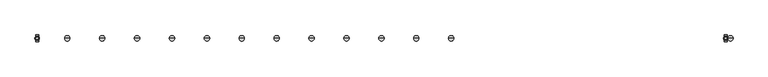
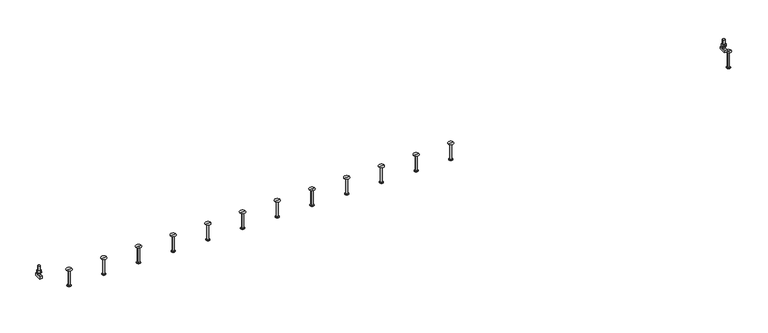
"""IFC4 building model written with IfcOpenShell, lengths in millimetres: fastener geometry, JTA-K JORDAHL® AnchorChannels : JTA-K L=6000 mm."""

from ifc_helpers import new_model, si_unit, point, frame, frame_2d, origin, place, context, project, spatial, polyline, circle_curve, trimmed, segment, composite_curve, outline, extrude, source, transform, mapped, element, save
from ifc_brep_helpers import plane_surface, cylinder_surface, revolved_surface, advanced_brep


def fastener_39b38214(model_context):
    return source(origin(), model_context, "Body", "SolidModel", [
        advanced_brep(
        [(3593.0, 0.0, -48.0), (3570.0, 0.0, -48.0), (3616.0, 0.0, -48.0), (3577.5, 0.0, -195.0), (3593.0, 0.0, -195.0), (3608.5, 0.0, -195.0), (3577.5, 0.0, -193.0), (3608.5, 0.0, -193.0), (3585.2, 0.0, -188.5544029), (3600.8, 0.0, -188.5544029), (3585.2, 0.0, -52.0), (3600.8, 0.0, -52.0)],
        [
            (0, 1),
            (1, 2, circle_curve(frame((3593.0, 0.0, -48.0), z_axis=(0.0, 0.0, 1.0), x_axis=(1.0, 0.0, 0.0)), 23.0)),
            (2, 0),
            (2, 1, circle_curve(frame((3593.0, 0.0, -48.0), z_axis=(0.0, 0.0, 1.0), x_axis=(1.0, 0.0, 0.0)), 23.0)),
            (3, 4),
            (4, 5),
            (5, 3, circle_curve(frame((3593.0, 0.0, -195.0), z_axis=(0.0, 0.0, -1.0), x_axis=(1.0, 0.0, 0.0)), 15.5)),
            (3, 5, circle_curve(frame((3593.0, 0.0, -195.0), z_axis=(0.0, 0.0, -1.0), x_axis=(1.0, 0.0, 0.0)), 15.5)),
            (6, 3),
            (5, 7),
            (7, 6, circle_curve(frame((3593.0, 0.0, -193.0), z_axis=(0.0, 0.0, -1.0), x_axis=(1.0, 0.0, 0.0)), 15.5)),
            (6, 7, circle_curve(frame((3593.0, 0.0, -193.0), z_axis=(0.0, 0.0, -1.0), x_axis=(1.0, 0.0, 0.0)), 15.5)),
            (8, 6),
            (7, 9),
            (9, 8, circle_curve(frame((3593.0, 0.0, -188.5544029), z_axis=(0.0, 0.0, -1.0), x_axis=(1.0, 0.0, 0.0)), 7.8)),
            (8, 9, circle_curve(frame((3593.0, 0.0, -188.5544029), z_axis=(0.0, 0.0, -1.0), x_axis=(1.0, 0.0, 0.0)), 7.8)),
            (10, 8),
            (9, 11),
            (11, 10, circle_curve(frame((3593.0, 0.0, -52.0), z_axis=(0.0, 0.0, -1.0), x_axis=(1.0, 0.0, 0.0)), 7.8)),
            (10, 11, circle_curve(frame((3593.0, 0.0, -52.0), z_axis=(0.0, 0.0, -1.0), x_axis=(1.0, 0.0, 0.0)), 7.8)),
            (1, 10),
            (11, 2),
        ],
        [
            plane_surface(frame((3593.0, 0.0, -48.0), z_axis=(0.0, 0.0, 1.0), x_axis=(1.0, 0.0, 0.0))),
            plane_surface(frame((3593.0, 0.0, -195.0), z_axis=(0.0, 0.0, -1.0), x_axis=(1.0, 0.0, 0.0))),
            cylinder_surface(frame((3593.0, 0.0, 2361.3150031), z_axis=(0.0, 0.0, 1.0), x_axis=(1.0, 0.0, 0.0)), 15.5),
            revolved_surface(polyline([(3608.5, 0.0, -193.0), (3600.8, 0.0, -188.5544029)]), (3593.0, 0.0, 2361.3150031), (0.0, 0.0, 1.0)),
            cylinder_surface(frame((3593.0, 0.0, 2361.3150031), z_axis=(0.0, 0.0, 1.0), x_axis=(1.0, 0.0, 0.0)), 7.8),
            revolved_surface(polyline([(3600.8, 0.0, -52.0), (3616.0, 0.0, -48.0)]), (3593.0, 0.0, 2361.3150031), (0.0, 0.0, 1.0)),
        ],
        [
            (0, [[1, 2, 3]]),
            (0, [[-3, 4, -1]]),
            (1, [[5, 6, 7]]),
            (1, [[-6, -5, 8]]),
            (2, [[9, -7, 10, 11]]),
            (2, [[-10, -8, -9, 12]]),
            (3, [[13, -11, 14, 15]]),
            (3, [[-14, -12, -13, 16]]),
            (4, [[17, -15, 18, 19]]),
            (4, [[-18, -16, -17, 20]]),
            (5, [[21, -19, 22, -2]]),
            (5, [[-22, -20, -21, -4]]),
        ],
    ),
        advanced_brep(
        [(3296.5, 0.0, -48.0), (3273.5, 0.0, -48.0), (3319.5, 0.0, -48.0), (3281.0, 0.0, -195.0), (3296.5, 0.0, -195.0), (3312.0, 0.0, -195.0), (3281.0, 0.0, -193.0), (3312.0, 0.0, -193.0), (3288.7, 0.0, -188.5544029), (3304.3, 0.0, -188.5544029), (3288.7, 0.0, -52.0), (3304.3, 0.0, -52.0)],
        [
            (0, 1),
            (1, 2, circle_curve(frame((3296.5, 0.0, -48.0), z_axis=(0.0, 0.0, 1.0), x_axis=(1.0, 0.0, 0.0)), 23.0)),
            (2, 0),
            (2, 1, circle_curve(frame((3296.5, 0.0, -48.0), z_axis=(0.0, 0.0, 1.0), x_axis=(1.0, 0.0, 0.0)), 23.0)),
            (3, 4),
            (4, 5),
            (5, 3, circle_curve(frame((3296.5, 0.0, -195.0), z_axis=(0.0, 0.0, -1.0), x_axis=(1.0, 0.0, 0.0)), 15.5)),
            (3, 5, circle_curve(frame((3296.5, 0.0, -195.0), z_axis=(0.0, 0.0, -1.0), x_axis=(1.0, 0.0, 0.0)), 15.5)),
            (6, 3),
            (5, 7),
            (7, 6, circle_curve(frame((3296.5, 0.0, -193.0), z_axis=(0.0, 0.0, -1.0), x_axis=(1.0, 0.0, 0.0)), 15.5)),
            (6, 7, circle_curve(frame((3296.5, 0.0, -193.0), z_axis=(0.0, 0.0, -1.0), x_axis=(1.0, 0.0, 0.0)), 15.5)),
            (8, 6),
            (7, 9),
            (9, 8, circle_curve(frame((3296.5, 0.0, -188.5544029), z_axis=(0.0, 0.0, -1.0), x_axis=(1.0, 0.0, 0.0)), 7.8)),
            (8, 9, circle_curve(frame((3296.5, 0.0, -188.5544029), z_axis=(0.0, 0.0, -1.0), x_axis=(1.0, 0.0, 0.0)), 7.8)),
            (10, 8),
            (9, 11),
            (11, 10, circle_curve(frame((3296.5, 0.0, -52.0), z_axis=(0.0, 0.0, -1.0), x_axis=(1.0, 0.0, 0.0)), 7.8)),
            (10, 11, circle_curve(frame((3296.5, 0.0, -52.0), z_axis=(0.0, 0.0, -1.0), x_axis=(1.0, 0.0, 0.0)), 7.8)),
            (1, 10),
            (11, 2),
        ],
        [
            plane_surface(frame((3296.5, 0.0, -48.0), z_axis=(0.0, 0.0, 1.0), x_axis=(1.0, 0.0, 0.0))),
            plane_surface(frame((3296.5, 0.0, -195.0), z_axis=(0.0, 0.0, -1.0), x_axis=(1.0, 0.0, 0.0))),
            cylinder_surface(frame((3296.5, 0.0, 2361.3150031), z_axis=(0.0, 0.0, 1.0), x_axis=(1.0, 0.0, 0.0)), 15.5),
            revolved_surface(polyline([(3312.0, 0.0, -193.0), (3304.3, 0.0, -188.5544029)]), (3296.5, 0.0, 2361.3150031), (0.0, 0.0, 1.0)),
            cylinder_surface(frame((3296.5, 0.0, 2361.3150031), z_axis=(0.0, 0.0, 1.0), x_axis=(1.0, 0.0, 0.0)), 7.8),
            revolved_surface(polyline([(3304.3, 0.0, -52.0), (3319.5, 0.0, -48.0)]), (3296.5, 0.0, 2361.3150031), (0.0, 0.0, 1.0)),
        ],
        [
            (0, [[1, 2, 3]]),
            (0, [[-3, 4, -1]]),
            (1, [[5, 6, 7]]),
            (1, [[-6, -5, 8]]),
            (2, [[9, -7, 10, 11]]),
            (2, [[-10, -8, -9, 12]]),
            (3, [[13, -11, 14, 15]]),
            (3, [[-14, -12, -13, 16]]),
            (4, [[17, -15, 18, 19]]),
            (4, [[-18, -16, -17, 20]]),
            (5, [[21, -19, 22, -2]]),
            (5, [[-22, -20, -21, -4]]),
        ],
    ),
        advanced_brep(
        [(3000.0, 0.0, -48.0), (2977.0, 0.0, -48.0), (3023.0, 0.0, -48.0), (2984.5, 0.0, -195.0), (3000.0, 0.0, -195.0), (3015.5, 0.0, -195.0), (2984.5, 0.0, -193.0), (3015.5, 0.0, -193.0), (2992.2, 0.0, -188.5544029), (3007.8, 0.0, -188.5544029), (2992.2, 0.0, -52.0), (3007.8, 0.0, -52.0)],
        [
            (0, 1),
            (1, 2, circle_curve(frame((3000.0, 0.0, -48.0), z_axis=(0.0, 0.0, 1.0), x_axis=(1.0, 0.0, 0.0)), 23.0)),
            (2, 0),
            (2, 1, circle_curve(frame((3000.0, 0.0, -48.0), z_axis=(0.0, 0.0, 1.0), x_axis=(1.0, 0.0, 0.0)), 23.0)),
            (3, 4),
            (4, 5),
            (5, 3, circle_curve(frame((3000.0, 0.0, -195.0), z_axis=(0.0, 0.0, -1.0), x_axis=(1.0, 0.0, 0.0)), 15.5)),
            (3, 5, circle_curve(frame((3000.0, 0.0, -195.0), z_axis=(0.0, 0.0, -1.0), x_axis=(1.0, 0.0, 0.0)), 15.5)),
            (6, 3),
            (5, 7),
            (7, 6, circle_curve(frame((3000.0, 0.0, -193.0), z_axis=(0.0, 0.0, -1.0), x_axis=(1.0, 0.0, 0.0)), 15.5)),
            (6, 7, circle_curve(frame((3000.0, 0.0, -193.0), z_axis=(0.0, 0.0, -1.0), x_axis=(1.0, 0.0, 0.0)), 15.5)),
            (8, 6),
            (7, 9),
            (9, 8, circle_curve(frame((3000.0, 0.0, -188.5544029), z_axis=(0.0, 0.0, -1.0), x_axis=(1.0, 0.0, 0.0)), 7.8)),
            (8, 9, circle_curve(frame((3000.0, 0.0, -188.5544029), z_axis=(0.0, 0.0, -1.0), x_axis=(1.0, 0.0, 0.0)), 7.8)),
            (10, 8),
            (9, 11),
            (11, 10, circle_curve(frame((3000.0, 0.0, -52.0), z_axis=(0.0, 0.0, -1.0), x_axis=(1.0, 0.0, 0.0)), 7.8)),
            (10, 11, circle_curve(frame((3000.0, 0.0, -52.0), z_axis=(0.0, 0.0, -1.0), x_axis=(1.0, 0.0, 0.0)), 7.8)),
            (1, 10),
            (11, 2),
        ],
        [
            plane_surface(frame((3000.0, 0.0, -48.0), z_axis=(0.0, 0.0, 1.0), x_axis=(1.0, 0.0, 0.0))),
            plane_surface(frame((3000.0, 0.0, -195.0), z_axis=(0.0, 0.0, -1.0), x_axis=(1.0, 0.0, 0.0))),
            cylinder_surface(frame((3000.0, 0.0, 2361.3150031), z_axis=(0.0, 0.0, 1.0), x_axis=(1.0, 0.0, 0.0)), 15.5),
            revolved_surface(polyline([(3015.5, 0.0, -193.0), (3007.8, 0.0, -188.5544029)]), (3000.0, 0.0, 2361.3150031), (0.0, 0.0, 1.0)),
            cylinder_surface(frame((3000.0, 0.0, 2361.3150031), z_axis=(0.0, 0.0, 1.0), x_axis=(1.0, 0.0, 0.0)), 7.8),
            revolved_surface(polyline([(3007.8, 0.0, -52.0), (3023.0, 0.0, -48.0)]), (3000.0, 0.0, 2361.3150031), (0.0, 0.0, 1.0)),
        ],
        [
            (0, [[1, 2, 3]]),
            (0, [[-3, 4, -1]]),
            (1, [[5, 6, 7]]),
            (1, [[-6, -5, 8]]),
            (2, [[9, -7, 10, 11]]),
            (2, [[-10, -8, -9, 12]]),
            (3, [[13, -11, 14, 15]]),
            (3, [[-14, -12, -13, 16]]),
            (4, [[17, -15, 18, 19]]),
            (4, [[-18, -16, -17, 20]]),
            (5, [[21, -19, 22, -2]]),
            (5, [[-22, -20, -21, -4]]),
        ],
    ),
        advanced_brep(
        [(2703.5, 0.0, -48.0), (2680.5, 0.0, -48.0), (2726.5, 0.0, -48.0), (2688.0, 0.0, -195.0), (2703.5, 0.0, -195.0), (2719.0, 0.0, -195.0), (2688.0, 0.0, -193.0), (2719.0, 0.0, -193.0), (2695.7, 0.0, -188.5544029), (2711.3, 0.0, -188.5544029), (2695.7, 0.0, -52.0), (2711.3, 0.0, -52.0)],
        [
            (0, 1),
            (1, 2, circle_curve(frame((2703.5, 0.0, -48.0), z_axis=(0.0, 0.0, 1.0), x_axis=(1.0, 0.0, 0.0)), 23.0)),
            (2, 0),
            (2, 1, circle_curve(frame((2703.5, 0.0, -48.0), z_axis=(0.0, 0.0, 1.0), x_axis=(1.0, 0.0, 0.0)), 23.0)),
            (3, 4),
            (4, 5),
            (5, 3, circle_curve(frame((2703.5, 0.0, -195.0), z_axis=(0.0, 0.0, -1.0), x_axis=(1.0, 0.0, 0.0)), 15.5)),
            (3, 5, circle_curve(frame((2703.5, 0.0, -195.0), z_axis=(0.0, 0.0, -1.0), x_axis=(1.0, 0.0, 0.0)), 15.5)),
            (6, 3),
            (5, 7),
            (7, 6, circle_curve(frame((2703.5, 0.0, -193.0), z_axis=(0.0, 0.0, -1.0), x_axis=(1.0, 0.0, 0.0)), 15.5)),
            (6, 7, circle_curve(frame((2703.5, 0.0, -193.0), z_axis=(0.0, 0.0, -1.0), x_axis=(1.0, 0.0, 0.0)), 15.5)),
            (8, 6),
            (7, 9),
            (9, 8, circle_curve(frame((2703.5, 0.0, -188.5544029), z_axis=(0.0, 0.0, -1.0), x_axis=(1.0, 0.0, 0.0)), 7.8)),
            (8, 9, circle_curve(frame((2703.5, 0.0, -188.5544029), z_axis=(0.0, 0.0, -1.0), x_axis=(1.0, 0.0, 0.0)), 7.8)),
            (10, 8),
            (9, 11),
            (11, 10, circle_curve(frame((2703.5, 0.0, -52.0), z_axis=(0.0, 0.0, -1.0), x_axis=(1.0, 0.0, 0.0)), 7.8)),
            (10, 11, circle_curve(frame((2703.5, 0.0, -52.0), z_axis=(0.0, 0.0, -1.0), x_axis=(1.0, 0.0, 0.0)), 7.8)),
            (1, 10),
            (11, 2),
        ],
        [
            plane_surface(frame((2703.5, 0.0, -48.0), z_axis=(0.0, 0.0, 1.0), x_axis=(1.0, 0.0, 0.0))),
            plane_surface(frame((2703.5, 0.0, -195.0), z_axis=(0.0, 0.0, -1.0), x_axis=(1.0, 0.0, 0.0))),
            cylinder_surface(frame((2703.5, 0.0, 2361.3150031), z_axis=(0.0, 0.0, 1.0), x_axis=(1.0, 0.0, 0.0)), 15.5),
            revolved_surface(polyline([(2719.0, 0.0, -193.0), (2711.3, 0.0, -188.5544029)]), (2703.5, 0.0, 2361.3150031), (0.0, 0.0, 1.0)),
            cylinder_surface(frame((2703.5, 0.0, 2361.3150031), z_axis=(0.0, 0.0, 1.0), x_axis=(1.0, 0.0, 0.0)), 7.8),
            revolved_surface(polyline([(2711.3, 0.0, -52.0), (2726.5, 0.0, -48.0)]), (2703.5, 0.0, 2361.3150031), (0.0, 0.0, 1.0)),
        ],
        [
            (0, [[1, 2, 3]]),
            (0, [[-3, 4, -1]]),
            (1, [[5, 6, 7]]),
            (1, [[-6, -5, 8]]),
            (2, [[9, -7, 10, 11]]),
            (2, [[-10, -8, -9, 12]]),
            (3, [[13, -11, 14, 15]]),
            (3, [[-14, -12, -13, 16]]),
            (4, [[17, -15, 18, 19]]),
            (4, [[-18, -16, -17, 20]]),
            (5, [[21, -19, 22, -2]]),
            (5, [[-22, -20, -21, -4]]),
        ],
    ),
        advanced_brep(
        [(2407.0, 0.0, -48.0), (2384.0, 0.0, -48.0), (2430.0, 0.0, -48.0), (2391.5, 0.0, -195.0), (2407.0, 0.0, -195.0), (2422.5, 0.0, -195.0), (2391.5, 0.0, -193.0), (2422.5, 0.0, -193.0), (2399.2, 0.0, -188.5544029), (2414.8, 0.0, -188.5544029), (2399.2, 0.0, -52.0), (2414.8, 0.0, -52.0)],
        [
            (0, 1),
            (1, 2, circle_curve(frame((2407.0, 0.0, -48.0), z_axis=(0.0, 0.0, 1.0), x_axis=(1.0, 0.0, 0.0)), 23.0)),
            (2, 0),
            (2, 1, circle_curve(frame((2407.0, 0.0, -48.0), z_axis=(0.0, 0.0, 1.0), x_axis=(1.0, 0.0, 0.0)), 23.0)),
            (3, 4),
            (4, 5),
            (5, 3, circle_curve(frame((2407.0, 0.0, -195.0), z_axis=(0.0, 0.0, -1.0), x_axis=(1.0, 0.0, 0.0)), 15.5)),
            (3, 5, circle_curve(frame((2407.0, 0.0, -195.0), z_axis=(0.0, 0.0, -1.0), x_axis=(1.0, 0.0, 0.0)), 15.5)),
            (6, 3),
            (5, 7),
            (7, 6, circle_curve(frame((2407.0, 0.0, -193.0), z_axis=(0.0, 0.0, -1.0), x_axis=(1.0, 0.0, 0.0)), 15.5)),
            (6, 7, circle_curve(frame((2407.0, 0.0, -193.0), z_axis=(0.0, 0.0, -1.0), x_axis=(1.0, 0.0, 0.0)), 15.5)),
            (8, 6),
            (7, 9),
            (9, 8, circle_curve(frame((2407.0, 0.0, -188.5544029), z_axis=(0.0, 0.0, -1.0), x_axis=(1.0, 0.0, 0.0)), 7.8)),
            (8, 9, circle_curve(frame((2407.0, 0.0, -188.5544029), z_axis=(0.0, 0.0, -1.0), x_axis=(1.0, 0.0, 0.0)), 7.8)),
            (10, 8),
            (9, 11),
            (11, 10, circle_curve(frame((2407.0, 0.0, -52.0), z_axis=(0.0, 0.0, -1.0), x_axis=(1.0, 0.0, 0.0)), 7.8)),
            (10, 11, circle_curve(frame((2407.0, 0.0, -52.0), z_axis=(0.0, 0.0, -1.0), x_axis=(1.0, 0.0, 0.0)), 7.8)),
            (1, 10),
            (11, 2),
        ],
        [
            plane_surface(frame((2407.0, 0.0, -48.0), z_axis=(0.0, 0.0, 1.0), x_axis=(1.0, 0.0, 0.0))),
            plane_surface(frame((2407.0, 0.0, -195.0), z_axis=(0.0, 0.0, -1.0), x_axis=(1.0, 0.0, 0.0))),
            cylinder_surface(frame((2407.0, 0.0, 2361.3150031), z_axis=(0.0, 0.0, 1.0), x_axis=(1.0, 0.0, 0.0)), 15.5),
            revolved_surface(polyline([(2422.5, 0.0, -193.0), (2414.8, 0.0, -188.5544029)]), (2407.0, 0.0, 2361.3150031), (0.0, 0.0, 1.0)),
            cylinder_surface(frame((2407.0, 0.0, 2361.3150031), z_axis=(0.0, 0.0, 1.0), x_axis=(1.0, 0.0, 0.0)), 7.8),
            revolved_surface(polyline([(2414.8, 0.0, -52.0), (2430.0, 0.0, -48.0)]), (2407.0, 0.0, 2361.3150031), (0.0, 0.0, 1.0)),
        ],
        [
            (0, [[1, 2, 3]]),
            (0, [[-3, 4, -1]]),
            (1, [[5, 6, 7]]),
            (1, [[-6, -5, 8]]),
            (2, [[9, -7, 10, 11]]),
            (2, [[-10, -8, -9, 12]]),
            (3, [[13, -11, 14, 15]]),
            (3, [[-14, -12, -13, 16]]),
            (4, [[17, -15, 18, 19]]),
            (4, [[-18, -16, -17, 20]]),
            (5, [[21, -19, 22, -2]]),
            (5, [[-22, -20, -21, -4]]),
        ],
    ),
        advanced_brep(
        [(2110.5, 0.0, -48.0), (2087.5, 0.0, -48.0), (2133.5, 0.0, -48.0), (2095.0, 0.0, -195.0), (2110.5, 0.0, -195.0), (2126.0, 0.0, -195.0), (2095.0, 0.0, -193.0), (2126.0, 0.0, -193.0), (2102.7, 0.0, -188.5544029), (2118.3, 0.0, -188.5544029), (2102.7, 0.0, -52.0), (2118.3, 0.0, -52.0)],
        [
            (0, 1),
            (1, 2, circle_curve(frame((2110.5, 0.0, -48.0), z_axis=(0.0, 0.0, 1.0), x_axis=(1.0, 0.0, 0.0)), 23.0)),
            (2, 0),
            (2, 1, circle_curve(frame((2110.5, 0.0, -48.0), z_axis=(0.0, 0.0, 1.0), x_axis=(1.0, 0.0, 0.0)), 23.0)),
            (3, 4),
            (4, 5),
            (5, 3, circle_curve(frame((2110.5, 0.0, -195.0), z_axis=(0.0, 0.0, -1.0), x_axis=(1.0, 0.0, 0.0)), 15.5)),
            (3, 5, circle_curve(frame((2110.5, 0.0, -195.0), z_axis=(0.0, 0.0, -1.0), x_axis=(1.0, 0.0, 0.0)), 15.5)),
            (6, 3),
            (5, 7),
            (7, 6, circle_curve(frame((2110.5, 0.0, -193.0), z_axis=(0.0, 0.0, -1.0), x_axis=(1.0, 0.0, 0.0)), 15.5)),
            (6, 7, circle_curve(frame((2110.5, 0.0, -193.0), z_axis=(0.0, 0.0, -1.0), x_axis=(1.0, 0.0, 0.0)), 15.5)),
            (8, 6),
            (7, 9),
            (9, 8, circle_curve(frame((2110.5, 0.0, -188.5544029), z_axis=(0.0, 0.0, -1.0), x_axis=(1.0, 0.0, 0.0)), 7.8)),
            (8, 9, circle_curve(frame((2110.5, 0.0, -188.5544029), z_axis=(0.0, 0.0, -1.0), x_axis=(1.0, 0.0, 0.0)), 7.8)),
            (10, 8),
            (9, 11),
            (11, 10, circle_curve(frame((2110.5, 0.0, -52.0), z_axis=(0.0, 0.0, -1.0), x_axis=(1.0, 0.0, 0.0)), 7.8)),
            (10, 11, circle_curve(frame((2110.5, 0.0, -52.0), z_axis=(0.0, 0.0, -1.0), x_axis=(1.0, 0.0, 0.0)), 7.8)),
            (1, 10),
            (11, 2),
        ],
        [
            plane_surface(frame((2110.5, 0.0, -48.0), z_axis=(0.0, 0.0, 1.0), x_axis=(1.0, 0.0, 0.0))),
            plane_surface(frame((2110.5, 0.0, -195.0), z_axis=(0.0, 0.0, -1.0), x_axis=(1.0, 0.0, 0.0))),
            cylinder_surface(frame((2110.5, 0.0, 2361.3150031), z_axis=(0.0, 0.0, 1.0), x_axis=(1.0, 0.0, 0.0)), 15.5),
            revolved_surface(polyline([(2126.0, 0.0, -193.0), (2118.3, 0.0, -188.5544029)]), (2110.5, 0.0, 2361.3150031), (0.0, 0.0, 1.0)),
            cylinder_surface(frame((2110.5, 0.0, 2361.3150031), z_axis=(0.0, 0.0, 1.0), x_axis=(1.0, 0.0, 0.0)), 7.8),
            revolved_surface(polyline([(2118.3, 0.0, -52.0), (2133.5, 0.0, -48.0)]), (2110.5, 0.0, 2361.3150031), (0.0, 0.0, 1.0)),
        ],
        [
            (0, [[1, 2, 3]]),
            (0, [[-3, 4, -1]]),
            (1, [[5, 6, 7]]),
            (1, [[-6, -5, 8]]),
            (2, [[9, -7, 10, 11]]),
            (2, [[-10, -8, -9, 12]]),
            (3, [[13, -11, 14, 15]]),
            (3, [[-14, -12, -13, 16]]),
            (4, [[17, -15, 18, 19]]),
            (4, [[-18, -16, -17, 20]]),
            (5, [[21, -19, 22, -2]]),
            (5, [[-22, -20, -21, -4]]),
        ],
    ),
        advanced_brep(
        [(1814.0, 0.0, -48.0), (1791.0, 0.0, -48.0), (1837.0, 0.0, -48.0), (1798.5, 0.0, -195.0), (1814.0, 0.0, -195.0), (1829.5, 0.0, -195.0), (1798.5, 0.0, -193.0), (1829.5, 0.0, -193.0), (1806.2, 0.0, -188.5544029), (1821.8, 0.0, -188.5544029), (1806.2, 0.0, -52.0), (1821.8, 0.0, -52.0)],
        [
            (0, 1),
            (1, 2, circle_curve(frame((1814.0, 0.0, -48.0), z_axis=(0.0, 0.0, 1.0), x_axis=(1.0, 0.0, 0.0)), 23.0)),
            (2, 0),
            (2, 1, circle_curve(frame((1814.0, 0.0, -48.0), z_axis=(0.0, 0.0, 1.0), x_axis=(1.0, 0.0, 0.0)), 23.0)),
            (3, 4),
            (4, 5),
            (5, 3, circle_curve(frame((1814.0, 0.0, -195.0), z_axis=(0.0, 0.0, -1.0), x_axis=(1.0, 0.0, 0.0)), 15.5)),
            (3, 5, circle_curve(frame((1814.0, 0.0, -195.0), z_axis=(0.0, 0.0, -1.0), x_axis=(1.0, 0.0, 0.0)), 15.5)),
            (6, 3),
            (5, 7),
            (7, 6, circle_curve(frame((1814.0, 0.0, -193.0), z_axis=(0.0, 0.0, -1.0), x_axis=(1.0, 0.0, 0.0)), 15.5)),
            (6, 7, circle_curve(frame((1814.0, 0.0, -193.0), z_axis=(0.0, 0.0, -1.0), x_axis=(1.0, 0.0, 0.0)), 15.5)),
            (8, 6),
            (7, 9),
            (9, 8, circle_curve(frame((1814.0, 0.0, -188.5544029), z_axis=(0.0, 0.0, -1.0), x_axis=(1.0, 0.0, 0.0)), 7.8)),
            (8, 9, circle_curve(frame((1814.0, 0.0, -188.5544029), z_axis=(0.0, 0.0, -1.0), x_axis=(1.0, 0.0, 0.0)), 7.8)),
            (10, 8),
            (9, 11),
            (11, 10, circle_curve(frame((1814.0, 0.0, -52.0), z_axis=(0.0, 0.0, -1.0), x_axis=(1.0, 0.0, 0.0)), 7.8)),
            (10, 11, circle_curve(frame((1814.0, 0.0, -52.0), z_axis=(0.0, 0.0, -1.0), x_axis=(1.0, 0.0, 0.0)), 7.8)),
            (1, 10),
            (11, 2),
        ],
        [
            plane_surface(frame((1814.0, 0.0, -48.0), z_axis=(0.0, 0.0, 1.0), x_axis=(1.0, 0.0, 0.0))),
            plane_surface(frame((1814.0, 0.0, -195.0), z_axis=(0.0, 0.0, -1.0), x_axis=(1.0, 0.0, 0.0))),
            cylinder_surface(frame((1814.0, 0.0, 2361.3150031), z_axis=(0.0, 0.0, 1.0), x_axis=(1.0, 0.0, 0.0)), 15.5),
            revolved_surface(polyline([(1829.5, 0.0, -193.0), (1821.8, 0.0, -188.5544029)]), (1814.0, 0.0, 2361.3150031), (0.0, 0.0, 1.0)),
            cylinder_surface(frame((1814.0, 0.0, 2361.3150031), z_axis=(0.0, 0.0, 1.0), x_axis=(1.0, 0.0, 0.0)), 7.8),
            revolved_surface(polyline([(1821.8, 0.0, -52.0), (1837.0, 0.0, -48.0)]), (1814.0, 0.0, 2361.3150031), (0.0, 0.0, 1.0)),
        ],
        [
            (0, [[1, 2, 3]]),
            (0, [[-3, 4, -1]]),
            (1, [[5, 6, 7]]),
            (1, [[-6, -5, 8]]),
            (2, [[9, -7, 10, 11]]),
            (2, [[-10, -8, -9, 12]]),
            (3, [[13, -11, 14, 15]]),
            (3, [[-14, -12, -13, 16]]),
            (4, [[17, -15, 18, 19]]),
            (4, [[-18, -16, -17, 20]]),
            (5, [[21, -19, 22, -2]]),
            (5, [[-22, -20, -21, -4]]),
        ],
    ),
        advanced_brep(
        [(1517.5, 0.0, -48.0), (1494.5, 0.0, -48.0), (1540.5, 0.0, -48.0), (1502.0, 0.0, -195.0), (1517.5, 0.0, -195.0), (1533.0, 0.0, -195.0), (1502.0, 0.0, -193.0), (1533.0, 0.0, -193.0), (1509.7, 0.0, -188.5544029), (1525.3, 0.0, -188.5544029), (1509.7, 0.0, -52.0), (1525.3, 0.0, -52.0)],
        [
            (0, 1),
            (1, 2, circle_curve(frame((1517.5, 0.0, -48.0), z_axis=(0.0, 0.0, 1.0), x_axis=(1.0, 0.0, 0.0)), 23.0)),
            (2, 0),
            (2, 1, circle_curve(frame((1517.5, 0.0, -48.0), z_axis=(0.0, 0.0, 1.0), x_axis=(1.0, 0.0, 0.0)), 23.0)),
            (3, 4),
            (4, 5),
            (5, 3, circle_curve(frame((1517.5, 0.0, -195.0), z_axis=(0.0, 0.0, -1.0), x_axis=(1.0, 0.0, 0.0)), 15.5)),
            (3, 5, circle_curve(frame((1517.5, 0.0, -195.0), z_axis=(0.0, 0.0, -1.0), x_axis=(1.0, 0.0, 0.0)), 15.5)),
            (6, 3),
            (5, 7),
            (7, 6, circle_curve(frame((1517.5, 0.0, -193.0), z_axis=(0.0, 0.0, -1.0), x_axis=(1.0, 0.0, 0.0)), 15.5)),
            (6, 7, circle_curve(frame((1517.5, 0.0, -193.0), z_axis=(0.0, 0.0, -1.0), x_axis=(1.0, 0.0, 0.0)), 15.5)),
            (8, 6),
            (7, 9),
            (9, 8, circle_curve(frame((1517.5, 0.0, -188.5544029), z_axis=(0.0, 0.0, -1.0), x_axis=(1.0, 0.0, 0.0)), 7.8)),
            (8, 9, circle_curve(frame((1517.5, 0.0, -188.5544029), z_axis=(0.0, 0.0, -1.0), x_axis=(1.0, 0.0, 0.0)), 7.8)),
            (10, 8),
            (9, 11),
            (11, 10, circle_curve(frame((1517.5, 0.0, -52.0), z_axis=(0.0, 0.0, -1.0), x_axis=(1.0, 0.0, 0.0)), 7.8)),
            (10, 11, circle_curve(frame((1517.5, 0.0, -52.0), z_axis=(0.0, 0.0, -1.0), x_axis=(1.0, 0.0, 0.0)), 7.8)),
            (1, 10),
            (11, 2),
        ],
        [
            plane_surface(frame((1517.5, 0.0, -48.0), z_axis=(0.0, 0.0, 1.0), x_axis=(1.0, 0.0, 0.0))),
            plane_surface(frame((1517.5, 0.0, -195.0), z_axis=(0.0, 0.0, -1.0), x_axis=(1.0, 0.0, 0.0))),
            cylinder_surface(frame((1517.5, 0.0, 2361.3150031), z_axis=(0.0, 0.0, 1.0), x_axis=(1.0, 0.0, 0.0)), 15.5),
            revolved_surface(polyline([(1533.0, 0.0, -193.0), (1525.3, 0.0, -188.5544029)]), (1517.5, 0.0, 2361.3150031), (0.0, 0.0, 1.0)),
            cylinder_surface(frame((1517.5, 0.0, 2361.3150031), z_axis=(0.0, 0.0, 1.0), x_axis=(1.0, 0.0, 0.0)), 7.8),
            revolved_surface(polyline([(1525.3, 0.0, -52.0), (1540.5, 0.0, -48.0)]), (1517.5, 0.0, 2361.3150031), (0.0, 0.0, 1.0)),
        ],
        [
            (0, [[1, 2, 3]]),
            (0, [[-3, 4, -1]]),
            (1, [[5, 6, 7]]),
            (1, [[-6, -5, 8]]),
            (2, [[9, -7, 10, 11]]),
            (2, [[-10, -8, -9, 12]]),
            (3, [[13, -11, 14, 15]]),
            (3, [[-14, -12, -13, 16]]),
            (4, [[17, -15, 18, 19]]),
            (4, [[-18, -16, -17, 20]]),
            (5, [[21, -19, 22, -2]]),
            (5, [[-22, -20, -21, -4]]),
        ],
    ),
        advanced_brep(
        [(1221.0, 0.0, -48.0), (1198.0, 0.0, -48.0), (1244.0, 0.0, -48.0), (1205.5, 0.0, -195.0), (1221.0, 0.0, -195.0), (1236.5, 0.0, -195.0), (1205.5, 0.0, -193.0), (1236.5, 0.0, -193.0), (1213.2, 0.0, -188.5544029), (1228.8, 0.0, -188.5544029), (1213.2, 0.0, -52.0), (1228.8, 0.0, -52.0)],
        [
            (0, 1),
            (1, 2, circle_curve(frame((1221.0, 0.0, -48.0), z_axis=(0.0, 0.0, 1.0), x_axis=(1.0, 0.0, 0.0)), 23.0)),
            (2, 0),
            (2, 1, circle_curve(frame((1221.0, 0.0, -48.0), z_axis=(0.0, 0.0, 1.0), x_axis=(1.0, 0.0, 0.0)), 23.0)),
            (3, 4),
            (4, 5),
            (5, 3, circle_curve(frame((1221.0, 0.0, -195.0), z_axis=(0.0, 0.0, -1.0), x_axis=(1.0, 0.0, 0.0)), 15.5)),
            (3, 5, circle_curve(frame((1221.0, 0.0, -195.0), z_axis=(0.0, 0.0, -1.0), x_axis=(1.0, 0.0, 0.0)), 15.5)),
            (6, 3),
            (5, 7),
            (7, 6, circle_curve(frame((1221.0, 0.0, -193.0), z_axis=(0.0, 0.0, -1.0), x_axis=(1.0, 0.0, 0.0)), 15.5)),
            (6, 7, circle_curve(frame((1221.0, 0.0, -193.0), z_axis=(0.0, 0.0, -1.0), x_axis=(1.0, 0.0, 0.0)), 15.5)),
            (8, 6),
            (7, 9),
            (9, 8, circle_curve(frame((1221.0, 0.0, -188.5544029), z_axis=(0.0, 0.0, -1.0), x_axis=(1.0, 0.0, 0.0)), 7.8)),
            (8, 9, circle_curve(frame((1221.0, 0.0, -188.5544029), z_axis=(0.0, 0.0, -1.0), x_axis=(1.0, 0.0, 0.0)), 7.8)),
            (10, 8),
            (9, 11),
            (11, 10, circle_curve(frame((1221.0, 0.0, -52.0), z_axis=(0.0, 0.0, -1.0), x_axis=(1.0, 0.0, 0.0)), 7.8)),
            (10, 11, circle_curve(frame((1221.0, 0.0, -52.0), z_axis=(0.0, 0.0, -1.0), x_axis=(1.0, 0.0, 0.0)), 7.8)),
            (1, 10),
            (11, 2),
        ],
        [
            plane_surface(frame((1221.0, 0.0, -48.0), z_axis=(0.0, 0.0, 1.0), x_axis=(1.0, 0.0, 0.0))),
            plane_surface(frame((1221.0, 0.0, -195.0), z_axis=(0.0, 0.0, -1.0), x_axis=(1.0, 0.0, 0.0))),
            cylinder_surface(frame((1221.0, 0.0, 2361.3150031), z_axis=(0.0, 0.0, 1.0), x_axis=(1.0, 0.0, 0.0)), 15.5),
            revolved_surface(polyline([(1236.5, 0.0, -193.0), (1228.8, 0.0, -188.5544029)]), (1221.0, 0.0, 2361.3150031), (0.0, 0.0, 1.0)),
            cylinder_surface(frame((1221.0, 0.0, 2361.3150031), z_axis=(0.0, 0.0, 1.0), x_axis=(1.0, 0.0, 0.0)), 7.8),
            revolved_surface(polyline([(1228.8, 0.0, -52.0), (1244.0, 0.0, -48.0)]), (1221.0, 0.0, 2361.3150031), (0.0, 0.0, 1.0)),
        ],
        [
            (0, [[1, 2, 3]]),
            (0, [[-3, 4, -1]]),
            (1, [[5, 6, 7]]),
            (1, [[-6, -5, 8]]),
            (2, [[9, -7, 10, 11]]),
            (2, [[-10, -8, -9, 12]]),
            (3, [[13, -11, 14, 15]]),
            (3, [[-14, -12, -13, 16]]),
            (4, [[17, -15, 18, 19]]),
            (4, [[-18, -16, -17, 20]]),
            (5, [[21, -19, 22, -2]]),
            (5, [[-22, -20, -21, -4]]),
        ],
    ),
        advanced_brep(
        [(924.5, 0.0, -48.0), (901.5, 0.0, -48.0), (947.5, 0.0, -48.0), (909.0, 0.0, -195.0), (924.5, 0.0, -195.0), (940.0, 0.0, -195.0), (909.0, 0.0, -193.0), (940.0, 0.0, -193.0), (916.7, 0.0, -188.5544029), (932.3, 0.0, -188.5544029), (916.7, 0.0, -52.0), (932.3, 0.0, -52.0)],
        [
            (0, 1),
            (1, 2, circle_curve(frame((924.5, 0.0, -48.0), z_axis=(0.0, 0.0, 1.0), x_axis=(1.0, 0.0, 0.0)), 23.0)),
            (2, 0),
            (2, 1, circle_curve(frame((924.5, 0.0, -48.0), z_axis=(0.0, 0.0, 1.0), x_axis=(1.0, 0.0, 0.0)), 23.0)),
            (3, 4),
            (4, 5),
            (5, 3, circle_curve(frame((924.5, 0.0, -195.0), z_axis=(0.0, 0.0, -1.0), x_axis=(1.0, 0.0, 0.0)), 15.5)),
            (3, 5, circle_curve(frame((924.5, 0.0, -195.0), z_axis=(0.0, 0.0, -1.0), x_axis=(1.0, 0.0, 0.0)), 15.5)),
            (6, 3),
            (5, 7),
            (7, 6, circle_curve(frame((924.5, 0.0, -193.0), z_axis=(0.0, 0.0, -1.0), x_axis=(1.0, 0.0, 0.0)), 15.5)),
            (6, 7, circle_curve(frame((924.5, 0.0, -193.0), z_axis=(0.0, 0.0, -1.0), x_axis=(1.0, 0.0, 0.0)), 15.5)),
            (8, 6),
            (7, 9),
            (9, 8, circle_curve(frame((924.5, 0.0, -188.5544029), z_axis=(0.0, 0.0, -1.0), x_axis=(1.0, 0.0, 0.0)), 7.8)),
            (8, 9, circle_curve(frame((924.5, 0.0, -188.5544029), z_axis=(0.0, 0.0, -1.0), x_axis=(1.0, 0.0, 0.0)), 7.8)),
            (10, 8),
            (9, 11),
            (11, 10, circle_curve(frame((924.5, 0.0, -52.0), z_axis=(0.0, 0.0, -1.0), x_axis=(1.0, 0.0, 0.0)), 7.8)),
            (10, 11, circle_curve(frame((924.5, 0.0, -52.0), z_axis=(0.0, 0.0, -1.0), x_axis=(1.0, 0.0, 0.0)), 7.8)),
            (1, 10),
            (11, 2),
        ],
        [
            plane_surface(frame((924.5, 0.0, -48.0), z_axis=(0.0, 0.0, 1.0), x_axis=(1.0, 0.0, 0.0))),
            plane_surface(frame((924.5, 0.0, -195.0), z_axis=(0.0, 0.0, -1.0), x_axis=(1.0, 0.0, 0.0))),
            cylinder_surface(frame((924.5, 0.0, 2361.3150031), z_axis=(0.0, 0.0, 1.0), x_axis=(1.0, 0.0, 0.0)), 15.5),
            revolved_surface(polyline([(940.0, 0.0, -193.0), (932.3, 0.0, -188.5544029)]), (924.5, 0.0, 2361.3150031), (0.0, 0.0, 1.0)),
            cylinder_surface(frame((924.5, 0.0, 2361.3150031), z_axis=(0.0, 0.0, 1.0), x_axis=(1.0, 0.0, 0.0)), 7.8),
            revolved_surface(polyline([(932.3, 0.0, -52.0), (947.5, 0.0, -48.0)]), (924.5, 0.0, 2361.3150031), (0.0, 0.0, 1.0)),
        ],
        [
            (0, [[1, 2, 3]]),
            (0, [[-3, 4, -1]]),
            (1, [[5, 6, 7]]),
            (1, [[-6, -5, 8]]),
            (2, [[9, -7, 10, 11]]),
            (2, [[-10, -8, -9, 12]]),
            (3, [[13, -11, 14, 15]]),
            (3, [[-14, -12, -13, 16]]),
            (4, [[17, -15, 18, 19]]),
            (4, [[-18, -16, -17, 20]]),
            (5, [[21, -19, 22, -2]]),
            (5, [[-22, -20, -21, -4]]),
        ],
    ),
        advanced_brep(
        [(628.0, 0.0, -48.0), (605.0, 0.0, -48.0), (651.0, 0.0, -48.0), (612.5, 0.0, -195.0), (628.0, 0.0, -195.0), (643.5, 0.0, -195.0), (612.5, 0.0, -193.0), (643.5, 0.0, -193.0), (620.2, 0.0, -188.5544029), (635.8, 0.0, -188.5544029), (620.2, 0.0, -52.0), (635.8, 0.0, -52.0)],
        [
            (0, 1),
            (1, 2, circle_curve(frame((628.0, 0.0, -48.0), z_axis=(0.0, 0.0, 1.0), x_axis=(1.0, 0.0, 0.0)), 23.0)),
            (2, 0),
            (2, 1, circle_curve(frame((628.0, 0.0, -48.0), z_axis=(0.0, 0.0, 1.0), x_axis=(1.0, 0.0, 0.0)), 23.0)),
            (3, 4),
            (4, 5),
            (5, 3, circle_curve(frame((628.0, 0.0, -195.0), z_axis=(0.0, 0.0, -1.0), x_axis=(1.0, 0.0, 0.0)), 15.5)),
            (3, 5, circle_curve(frame((628.0, 0.0, -195.0), z_axis=(0.0, 0.0, -1.0), x_axis=(1.0, 0.0, 0.0)), 15.5)),
            (6, 3),
            (5, 7),
            (7, 6, circle_curve(frame((628.0, 0.0, -193.0), z_axis=(0.0, 0.0, -1.0), x_axis=(1.0, 0.0, 0.0)), 15.5)),
            (6, 7, circle_curve(frame((628.0, 0.0, -193.0), z_axis=(0.0, 0.0, -1.0), x_axis=(1.0, 0.0, 0.0)), 15.5)),
            (8, 6),
            (7, 9),
            (9, 8, circle_curve(frame((628.0, 0.0, -188.5544029), z_axis=(0.0, 0.0, -1.0), x_axis=(1.0, 0.0, 0.0)), 7.8)),
            (8, 9, circle_curve(frame((628.0, 0.0, -188.5544029), z_axis=(0.0, 0.0, -1.0), x_axis=(1.0, 0.0, 0.0)), 7.8)),
            (10, 8),
            (9, 11),
            (11, 10, circle_curve(frame((628.0, 0.0, -52.0), z_axis=(0.0, 0.0, -1.0), x_axis=(1.0, 0.0, 0.0)), 7.8)),
            (10, 11, circle_curve(frame((628.0, 0.0, -52.0), z_axis=(0.0, 0.0, -1.0), x_axis=(1.0, 0.0, 0.0)), 7.8)),
            (1, 10),
            (11, 2),
        ],
        [
            plane_surface(frame((628.0, 0.0, -48.0), z_axis=(0.0, 0.0, 1.0), x_axis=(1.0, 0.0, 0.0))),
            plane_surface(frame((628.0, 0.0, -195.0), z_axis=(0.0, 0.0, -1.0), x_axis=(1.0, 0.0, 0.0))),
            cylinder_surface(frame((628.0, 0.0, 2361.3150031), z_axis=(0.0, 0.0, 1.0), x_axis=(1.0, 0.0, 0.0)), 15.5),
            revolved_surface(polyline([(643.5, 0.0, -193.0), (635.8, 0.0, -188.5544029)]), (628.0, 0.0, 2361.3150031), (0.0, 0.0, 1.0)),
            cylinder_surface(frame((628.0, 0.0, 2361.3150031), z_axis=(0.0, 0.0, 1.0), x_axis=(1.0, 0.0, 0.0)), 7.8),
            revolved_surface(polyline([(635.8, 0.0, -52.0), (651.0, 0.0, -48.0)]), (628.0, 0.0, 2361.3150031), (0.0, 0.0, 1.0)),
        ],
        [
            (0, [[1, 2, 3]]),
            (0, [[-3, 4, -1]]),
            (1, [[5, 6, 7]]),
            (1, [[-6, -5, 8]]),
            (2, [[9, -7, 10, 11]]),
            (2, [[-10, -8, -9, 12]]),
            (3, [[13, -11, 14, 15]]),
            (3, [[-14, -12, -13, 16]]),
            (4, [[17, -15, 18, 19]]),
            (4, [[-18, -16, -17, 20]]),
            (5, [[21, -19, 22, -2]]),
            (5, [[-22, -20, -21, -4]]),
        ],
    ),
        advanced_brep(
        [(331.5, 0.0, -48.0), (308.5, 0.0, -48.0), (354.5, 0.0, -48.0), (316.0, 0.0, -195.0), (331.5, 0.0, -195.0), (347.0, 0.0, -195.0), (316.0, 0.0, -193.0), (347.0, 0.0, -193.0), (323.7, 0.0, -188.5544029), (339.3, 0.0, -188.5544029), (323.7, 0.0, -52.0), (339.3, 0.0, -52.0)],
        [
            (0, 1),
            (1, 2, circle_curve(frame((331.5, 0.0, -48.0), z_axis=(0.0, 0.0, 1.0), x_axis=(1.0, 0.0, 0.0)), 23.0)),
            (2, 0),
            (2, 1, circle_curve(frame((331.5, 0.0, -48.0), z_axis=(0.0, 0.0, 1.0), x_axis=(1.0, 0.0, 0.0)), 23.0)),
            (3, 4),
            (4, 5),
            (5, 3, circle_curve(frame((331.5, 0.0, -195.0), z_axis=(0.0, 0.0, -1.0), x_axis=(1.0, 0.0, 0.0)), 15.5)),
            (3, 5, circle_curve(frame((331.5, 0.0, -195.0), z_axis=(0.0, 0.0, -1.0), x_axis=(1.0, 0.0, 0.0)), 15.5)),
            (6, 3),
            (5, 7),
            (7, 6, circle_curve(frame((331.5, 0.0, -193.0), z_axis=(0.0, 0.0, -1.0), x_axis=(1.0, 0.0, 0.0)), 15.5)),
            (6, 7, circle_curve(frame((331.5, 0.0, -193.0), z_axis=(0.0, 0.0, -1.0), x_axis=(1.0, 0.0, 0.0)), 15.5)),
            (8, 6),
            (7, 9),
            (9, 8, circle_curve(frame((331.5, 0.0, -188.5544029), z_axis=(0.0, 0.0, -1.0), x_axis=(1.0, 0.0, 0.0)), 7.8)),
            (8, 9, circle_curve(frame((331.5, 0.0, -188.5544029), z_axis=(0.0, 0.0, -1.0), x_axis=(1.0, 0.0, 0.0)), 7.8)),
            (10, 8),
            (9, 11),
            (11, 10, circle_curve(frame((331.5, 0.0, -52.0), z_axis=(0.0, 0.0, -1.0), x_axis=(1.0, 0.0, 0.0)), 7.8)),
            (10, 11, circle_curve(frame((331.5, 0.0, -52.0), z_axis=(0.0, 0.0, -1.0), x_axis=(1.0, 0.0, 0.0)), 7.8)),
            (1, 10),
            (11, 2),
        ],
        [
            plane_surface(frame((331.5, 0.0, -48.0), z_axis=(0.0, 0.0, 1.0), x_axis=(1.0, 0.0, 0.0))),
            plane_surface(frame((331.5, 0.0, -195.0), z_axis=(0.0, 0.0, -1.0), x_axis=(1.0, 0.0, 0.0))),
            cylinder_surface(frame((331.5, 0.0, 2361.3150031), z_axis=(0.0, 0.0, 1.0), x_axis=(1.0, 0.0, 0.0)), 15.5),
            revolved_surface(polyline([(347.0, 0.0, -193.0), (339.3, 0.0, -188.5544029)]), (331.5, 0.0, 2361.3150031), (0.0, 0.0, 1.0)),
            cylinder_surface(frame((331.5, 0.0, 2361.3150031), z_axis=(0.0, 0.0, 1.0), x_axis=(1.0, 0.0, 0.0)), 7.8),
            revolved_surface(polyline([(339.3, 0.0, -52.0), (354.5, 0.0, -48.0)]), (331.5, 0.0, 2361.3150031), (0.0, 0.0, 1.0)),
        ],
        [
            (0, [[1, 2, 3]]),
            (0, [[-3, 4, -1]]),
            (1, [[5, 6, 7]]),
            (1, [[-6, -5, 8]]),
            (2, [[9, -7, 10, 11]]),
            (2, [[-10, -8, -9, 12]]),
            (3, [[13, -11, 14, 15]]),
            (3, [[-14, -12, -13, 16]]),
            (4, [[17, -15, 18, 19]]),
            (4, [[-18, -16, -17, 20]]),
            (5, [[21, -19, 22, -2]]),
            (5, [[-22, -20, -21, -4]]),
        ],
    ),
        extrude(outline(polyline([(5925.0, -17.3205081), (5910.0, -8.660254), (5910.0, 8.660254), (5925.0, 17.3205081), (5940.0, 8.660254), (5940.0, -8.660254), (5925.0, -17.3205081)]), holes=[composite_curve([segment(trimmed(circle_curve(frame_2d((5925.0, 0.0)), 10.0), [point((5915.0, 0.0))], [point((5935.0, 0.0))], True, "CARTESIAN"), True, "CONTINUOUS"), segment(trimmed(circle_curve(frame_2d((5925.0, 0.0)), 10.0), [point((5935.0, 0.0))], [point((5915.0, 0.0))], True, "CARTESIAN"), True, "CONTINUOUS")], self_intersect=False)]), frame((0.0, 0.0, 18.0), z_axis=(0.0, 0.0, 1.0), x_axis=(1.0, 0.0, 0.0)), (0.0, 0.0, 1.0), 18.0),
        extrude(outline(composite_curve([segment(trimmed(circle_curve(frame_2d((5925.0, 0.0)), 18.5), [point((5906.5, 0.0))], [point((5943.5, 0.0))], False, "CARTESIAN"), True, "CONTINUOUS"), segment(trimmed(circle_curve(frame_2d((5925.0, 0.0)), 18.5), [point((5943.5, 0.0))], [point((5906.5, 0.0))], False, "CARTESIAN"), True, "CONTINUOUS")], self_intersect=False), holes=[composite_curve([segment(trimmed(circle_curve(frame_2d((5925.0, 0.0)), 10.5), [point((5914.5, 0.0))], [point((5935.5, 0.0))], True, "CARTESIAN"), True, "CONTINUOUS"), segment(trimmed(circle_curve(frame_2d((5925.0, 0.0)), 10.5), [point((5935.5, 0.0))], [point((5914.5, 0.0))], True, "CARTESIAN"), True, "CONTINUOUS")], self_intersect=False)]), frame((0.0, 0.0, 15.0), z_axis=(0.0, 0.0, 1.0), x_axis=(1.0, 0.0, 0.0)), (0.0, 0.0, 1.0), 3.0),
        extrude(outline(polyline([(75.0, -17.3205081), (60.0, -8.660254), (60.0, 8.660254), (75.0, 17.3205081), (90.0, 8.660254), (90.0, -8.660254), (75.0, -17.3205081)]), holes=[composite_curve([segment(trimmed(circle_curve(frame_2d((75.0, 0.0)), 10.0), [point((65.0, 0.0))], [point((85.0, 0.0))], True, "CARTESIAN"), True, "CONTINUOUS"), segment(trimmed(circle_curve(frame_2d((75.0, 0.0)), 10.0), [point((85.0, 0.0))], [point((65.0, 0.0))], True, "CARTESIAN"), True, "CONTINUOUS")], self_intersect=False)]), frame((0.0, 0.0, 18.0), z_axis=(0.0, 0.0, 1.0), x_axis=(1.0, 0.0, 0.0)), (0.0, 0.0, 1.0), 18.0),
        extrude(outline(composite_curve([segment(trimmed(circle_curve(frame_2d((75.0, 0.0)), 18.5), [point((56.5, 0.0))], [point((93.5, 0.0))], False, "CARTESIAN"), True, "CONTINUOUS"), segment(trimmed(circle_curve(frame_2d((75.0, 0.0)), 18.5), [point((93.5, 0.0))], [point((56.5, 0.0))], False, "CARTESIAN"), True, "CONTINUOUS")], self_intersect=False), holes=[composite_curve([segment(trimmed(circle_curve(frame_2d((75.0, 0.0)), 10.5), [point((64.5, 0.0))], [point((85.5, 0.0))], True, "CARTESIAN"), True, "CONTINUOUS"), segment(trimmed(circle_curve(frame_2d((75.0, 0.0)), 10.5), [point((85.5, 0.0))], [point((64.5, 0.0))], True, "CARTESIAN"), True, "CONTINUOUS")], self_intersect=False)]), frame((0.0, 0.0, 15.0), z_axis=(0.0, 0.0, 1.0), x_axis=(1.0, 0.0, 0.0)), (0.0, 0.0, 1.0), 3.0),
        advanced_brep(
        [(5937.5, -29.0, -6.0), (5937.5, -29.0, -26.0), (5937.5, 29.0, -26.0), (5937.5, 29.0, -6.0), (5912.5, -29.0, -6.0), (5912.5, 29.0, -6.0), (5912.5, 29.0, -26.0), (5912.5, -29.0, -26.0), (5935.0, 0.0, -6.0), (5915.0, 0.0, -6.0), (5915.0, 0.0, 74.0), (5935.0, 0.0, 74.0)],
        [
            (0, 1),
            (1, 2),
            (2, 3),
            (3, 0),
            (4, 5),
            (5, 6),
            (6, 7),
            (7, 4),
            (3, 5),
            (4, 0),
            (8, 9, circle_curve(frame((5925.0, 0.0, -6.0), z_axis=(0.0, 0.0, -1.0), x_axis=(1.0, 0.0, 0.0)), 10.0)),
            (9, 8, circle_curve(frame((5925.0, 0.0, -6.0), z_axis=(0.0, 0.0, -1.0), x_axis=(1.0, 0.0, 0.0)), 10.0)),
            (2, 6),
            (1, 7),
            (10, 11, circle_curve(frame((5925.0, 0.0, 74.0), z_axis=(0.0, 0.0, 1.0), x_axis=(1.0, 0.0, 0.0)), 10.0)),
            (11, 10, circle_curve(frame((5925.0, 0.0, 74.0), z_axis=(0.0, 0.0, 1.0), x_axis=(1.0, 0.0, 0.0)), 10.0)),
            (11, 8),
            (9, 10),
        ],
        [
            plane_surface(frame((5937.5, 29.0, -6.0), z_axis=(1.0, 0.0, 0.0), x_axis=(0.0, 1.0, 0.0))),
            plane_surface(frame((5912.5, 29.0, -6.0), z_axis=(-1.0, 0.0, 0.0), x_axis=(0.0, -1.0, 0.0))),
            plane_surface(frame((5937.5, -29.0, -6.0), z_axis=(0.0, 0.0, 1.0), x_axis=(-1.0, 0.0, 0.0))),
            plane_surface(frame((5937.5, 29.0, -6.0), z_axis=(0.0, 1.0, 0.0), x_axis=(-1.0, 0.0, 0.0))),
            plane_surface(frame((5937.5, 29.0, -26.0), z_axis=(0.0, 0.0, -1.0), x_axis=(-1.0, 0.0, 0.0))),
            plane_surface(frame((5937.5, -29.0, -26.0), z_axis=(0.0, -1.0, 0.0), x_axis=(-1.0, 0.0, 0.0))),
            plane_surface(frame((5935.0, 0.0, 74.0), z_axis=(0.0, 0.0, 1.0), x_axis=(0.0, -1.0, 0.0))),
            cylinder_surface(frame((5925.0, 0.0, -6.0), z_axis=(0.0, 0.0, 1.0), x_axis=(1.0, 0.0, 0.0)), 10.0),
        ],
        [
            (0, [[1, 2, 3, 4]]),
            (1, [[5, 6, 7, 8]]),
            (2, [[9, -5, 10, -4], [11, 12]]),
            (3, [[13, -6, -9, -3]]),
            (4, [[14, -7, -13, -2]]),
            (5, [[-10, -8, -14, -1]]),
            (6, [[15, 16]]),
            (7, [[17, -12, 18, -16]]),
            (7, [[-18, -11, -17, -15]]),
        ],
    ),
        advanced_brep(
        [(87.5, -29.0, -6.0), (87.5, -29.0, -26.0), (87.5, 29.0, -26.0), (87.5, 29.0, -6.0), (62.5, -29.0, -6.0), (62.5, 29.0, -6.0), (62.5, 29.0, -26.0), (62.5, -29.0, -26.0), (85.0, 0.0, -6.0), (65.0, 0.0, -6.0), (65.0, 0.0, 74.0), (85.0, 0.0, 74.0)],
        [
            (0, 1),
            (1, 2),
            (2, 3),
            (3, 0),
            (4, 5),
            (5, 6),
            (6, 7),
            (7, 4),
            (3, 5),
            (4, 0),
            (8, 9, circle_curve(frame((75.0, 0.0, -6.0), z_axis=(0.0, 0.0, -1.0), x_axis=(1.0, 0.0, 0.0)), 10.0)),
            (9, 8, circle_curve(frame((75.0, 0.0, -6.0), z_axis=(0.0, 0.0, -1.0), x_axis=(1.0, 0.0, 0.0)), 10.0)),
            (2, 6),
            (1, 7),
            (10, 11, circle_curve(frame((75.0, 0.0, 74.0), z_axis=(0.0, 0.0, 1.0), x_axis=(1.0, 0.0, 0.0)), 10.0)),
            (11, 10, circle_curve(frame((75.0, 0.0, 74.0), z_axis=(0.0, 0.0, 1.0), x_axis=(1.0, 0.0, 0.0)), 10.0)),
            (11, 8),
            (9, 10),
        ],
        [
            plane_surface(frame((87.5, 29.0, -6.0), z_axis=(1.0, 0.0, 0.0), x_axis=(0.0, 1.0, 0.0))),
            plane_surface(frame((62.5, 29.0, -6.0), z_axis=(-1.0, 0.0, 0.0), x_axis=(0.0, -1.0, 0.0))),
            plane_surface(frame((87.5, -29.0, -6.0), z_axis=(0.0, 0.0, 1.0), x_axis=(-1.0, 0.0, 0.0))),
            plane_surface(frame((87.5, 29.0, -6.0), z_axis=(0.0, 1.0, 0.0), x_axis=(-1.0, 0.0, 0.0))),
            plane_surface(frame((87.5, 29.0, -26.0), z_axis=(0.0, 0.0, -1.0), x_axis=(-1.0, 0.0, 0.0))),
            plane_surface(frame((87.5, -29.0, -26.0), z_axis=(0.0, -1.0, 0.0), x_axis=(-1.0, 0.0, 0.0))),
            plane_surface(frame((85.0, 0.0, 74.0), z_axis=(0.0, 0.0, 1.0), x_axis=(0.0, -1.0, 0.0))),
            cylinder_surface(frame((75.0, 0.0, -6.0), z_axis=(0.0, 0.0, 1.0), x_axis=(1.0, 0.0, 0.0)), 10.0),
        ],
        [
            (0, [[1, 2, 3, 4]]),
            (1, [[5, 6, 7, 8]]),
            (2, [[9, -5, 10, -4], [11, 12]]),
            (3, [[13, -6, -9, -3]]),
            (4, [[14, -7, -13, -2]]),
            (5, [[-10, -8, -14, -1]]),
            (6, [[15, 16]]),
            (7, [[17, -12, 18, -16]]),
            (7, [[-18, -11, -17, -15]]),
        ],
    ),
        advanced_brep(
        [(5965.0, 0.0, -48.0), (5942.0, 0.0, -48.0), (5988.0, 0.0, -48.0), (5949.5, 0.0, -195.0), (5965.0, 0.0, -195.0), (5980.5, 0.0, -195.0), (5949.5, 0.0, -193.0), (5980.5, 0.0, -193.0), (5957.2, 0.0, -188.5544029), (5972.8, 0.0, -188.5544029), (5957.2, 0.0, -52.0), (5972.8, 0.0, -52.0)],
        [
            (0, 1),
            (1, 2, circle_curve(frame((5965.0, 0.0, -48.0), z_axis=(0.0, 0.0, 1.0), x_axis=(1.0, 0.0, 0.0)), 23.0)),
            (2, 0),
            (2, 1, circle_curve(frame((5965.0, 0.0, -48.0), z_axis=(0.0, 0.0, 1.0), x_axis=(1.0, 0.0, 0.0)), 23.0)),
            (3, 4),
            (4, 5),
            (5, 3, circle_curve(frame((5965.0, 0.0, -195.0), z_axis=(0.0, 0.0, -1.0), x_axis=(1.0, 0.0, 0.0)), 15.5)),
            (3, 5, circle_curve(frame((5965.0, 0.0, -195.0), z_axis=(0.0, 0.0, -1.0), x_axis=(1.0, 0.0, 0.0)), 15.5)),
            (6, 3),
            (5, 7),
            (7, 6, circle_curve(frame((5965.0, 0.0, -193.0), z_axis=(0.0, 0.0, -1.0), x_axis=(1.0, 0.0, 0.0)), 15.5)),
            (6, 7, circle_curve(frame((5965.0, 0.0, -193.0), z_axis=(0.0, 0.0, -1.0), x_axis=(1.0, 0.0, 0.0)), 15.5)),
            (8, 6),
            (7, 9),
            (9, 8, circle_curve(frame((5965.0, 0.0, -188.5544029), z_axis=(0.0, 0.0, -1.0), x_axis=(1.0, 0.0, 0.0)), 7.8)),
            (8, 9, circle_curve(frame((5965.0, 0.0, -188.5544029), z_axis=(0.0, 0.0, -1.0), x_axis=(1.0, 0.0, 0.0)), 7.8)),
            (10, 8),
            (9, 11),
            (11, 10, circle_curve(frame((5965.0, 0.0, -52.0), z_axis=(0.0, 0.0, -1.0), x_axis=(1.0, 0.0, 0.0)), 7.8)),
            (10, 11, circle_curve(frame((5965.0, 0.0, -52.0), z_axis=(0.0, 0.0, -1.0), x_axis=(1.0, 0.0, 0.0)), 7.8)),
            (1, 10),
            (11, 2),
        ],
        [
            plane_surface(frame((5965.0, 0.0, -48.0), z_axis=(0.0, 0.0, 1.0), x_axis=(1.0, 0.0, 0.0))),
            plane_surface(frame((5965.0, 0.0, -195.0), z_axis=(0.0, 0.0, -1.0), x_axis=(1.0, 0.0, 0.0))),
            cylinder_surface(frame((5965.0, 0.0, 2361.3150031), z_axis=(0.0, 0.0, 1.0), x_axis=(1.0, 0.0, 0.0)), 15.5),
            revolved_surface(polyline([(5980.5, 0.0, -193.0), (5972.8, 0.0, -188.5544029)]), (5965.0, 0.0, 2361.3150031), (0.0, 0.0, 1.0)),
            cylinder_surface(frame((5965.0, 0.0, 2361.3150031), z_axis=(0.0, 0.0, 1.0), x_axis=(1.0, 0.0, 0.0)), 7.8),
            revolved_surface(polyline([(5972.8, 0.0, -52.0), (5988.0, 0.0, -48.0)]), (5965.0, 0.0, 2361.3150031), (0.0, 0.0, 1.0)),
        ],
        [
            (0, [[1, 2, 3]]),
            (0, [[-3, 4, -1]]),
            (1, [[5, 6, 7]]),
            (1, [[-6, -5, 8]]),
            (2, [[9, -7, 10, 11]]),
            (2, [[-10, -8, -9, 12]]),
            (3, [[13, -11, 14, 15]]),
            (3, [[-14, -12, -13, 16]]),
            (4, [[17, -15, 18, 19]]),
            (4, [[-18, -16, -17, 20]]),
            (5, [[21, -19, 22, -2]]),
            (5, [[-22, -20, -21, -4]]),
        ],
    ),
    ])


if __name__ == "__main__":
    model = new_model("IFC4")
    model_context = context("Model", 3, world=origin())
    ifc_project = project(units=[si_unit("LENGTHUNIT", "METRE", prefix="MILLI")], contexts=[model_context])
    site = spatial("IfcSite", under=ifc_project)
    building = spatial("IfcBuilding", under=site)
    placement = place(None, origin())
    fastener_shape = fastener_39b38214(model_context)
    element("IfcFastener", 1, ObjectType="JTA-K JORDAHL® AnchorChannels : JTA-K L=6000 mm", at=placement, inside=building, context=model_context, shape_type="MappedRepresentation", body=[
        mapped(fastener_shape, transform((0.0, 0.0, 0.0), x_axis=(1.0, 0.0, 0.0), y_axis=(0.0, 1.0, 0.0), z_axis=(0.0, 0.0, 1.0))),
    ])
    save(model, "model.ifc")
